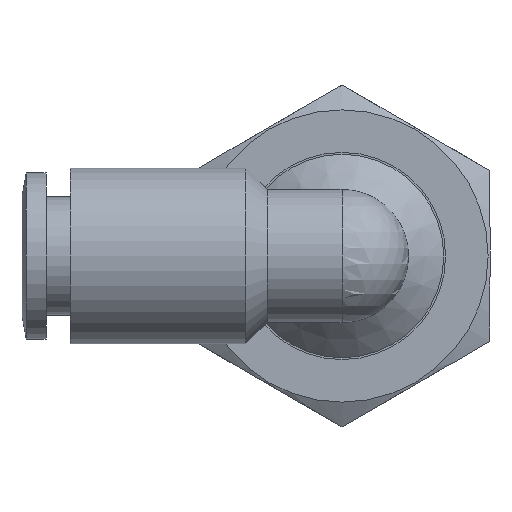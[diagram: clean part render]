
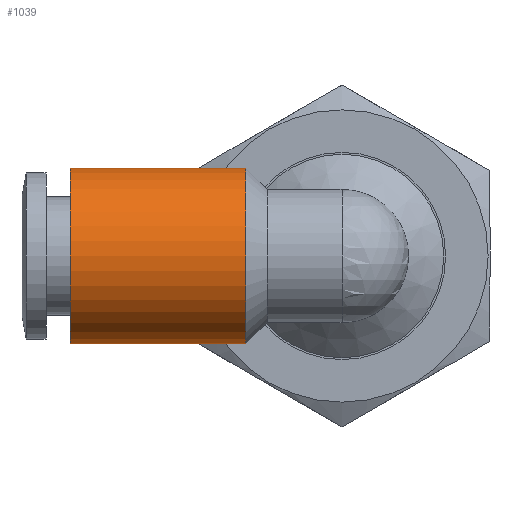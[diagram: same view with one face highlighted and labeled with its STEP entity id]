
A CAD part, left-side view. The second image highlights one B-rep face of the part: STEP entity #1039.
In plain terms, the highlighted cylindrical face has radius 4.75 mm (diameter 9.5 mm), a full revolution.
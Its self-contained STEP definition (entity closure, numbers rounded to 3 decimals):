
#1005=CARTESIAN_POINT('',(-4.75,5.2,0.0));
#1006=VERTEX_POINT('',#1005);
#1007=CARTESIAN_POINT('',(0.0,5.2,0.0));
#1008=DIRECTION('',(0.0,1.0,0.0));
#1009=DIRECTION('',(-1.0,0.0,0.0));
#1010=AXIS2_PLACEMENT_3D('',#1007,#1008,#1009);
#1011=CIRCLE('',#1010,4.75);
#1012=EDGE_CURVE('',#1006,#1006,#1011,.T.);
#1020=CARTESIAN_POINT('',(0.0,9.95,0.0));
#1021=DIRECTION('',(0.0,1.0,0.0));
#1022=DIRECTION('',(-1.0,0.0,0.0));
#1023=AXIS2_PLACEMENT_3D('',#1020,#1021,#1022);
#1024=CYLINDRICAL_SURFACE('',#1023,4.75);
#1025=CARTESIAN_POINT('',(-4.75,14.7,0.0));
#1026=VERTEX_POINT('',#1025);
#1027=CARTESIAN_POINT('',(0.0,14.7,0.0));
#1028=DIRECTION('',(0.0,1.0,0.0));
#1029=DIRECTION('',(-1.0,0.0,0.0));
#1030=AXIS2_PLACEMENT_3D('',#1027,#1028,#1029);
#1031=CIRCLE('',#1030,4.75);
#1032=EDGE_CURVE('',#1026,#1026,#1031,.T.);
#1033=ORIENTED_EDGE('',*,*,#1032,.F.);
#1034=EDGE_LOOP('',(#1033));
#1035=FACE_OUTER_BOUND('',#1034,.T.);
#1036=ORIENTED_EDGE('',*,*,#1012,.T.);
#1037=EDGE_LOOP('',(#1036));
#1038=FACE_BOUND('',#1037,.T.);
#1039=ADVANCED_FACE('',(#1035,#1038),#1024,.T.);
